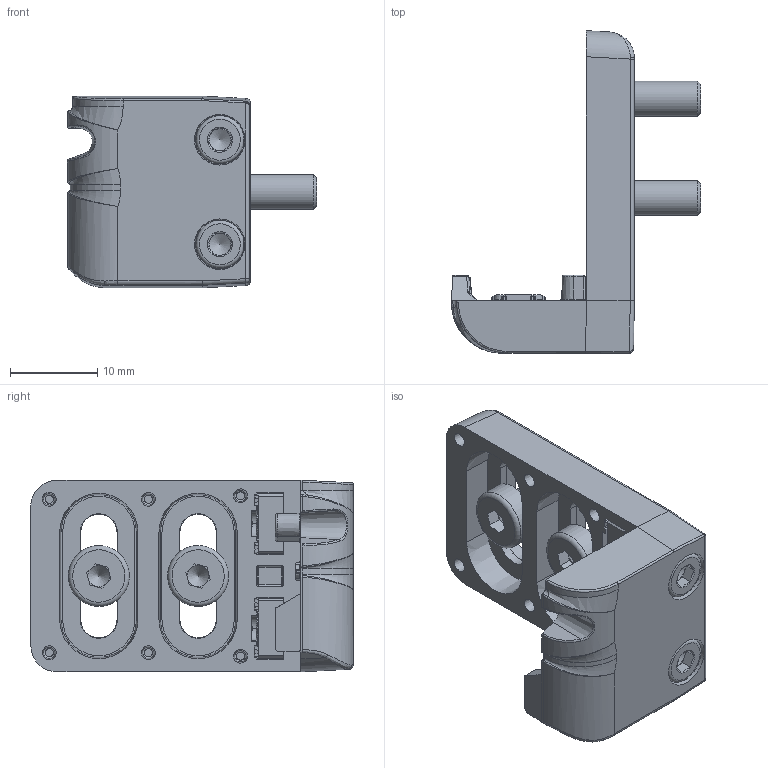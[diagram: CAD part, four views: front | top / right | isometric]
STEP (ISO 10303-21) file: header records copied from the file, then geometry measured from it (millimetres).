
FILE_DESCRIPTION(/* description */ (''),/* implementation_level */ '2;1');
FILE_NAME(/* name */ 'DSD-0660.stp',/* time_stamp */ '2015-12-21T10:54:51+01:00',/* author */ (''),/* organization */ (''),/* preprocessor_version */ 'ST-DEVELOPER v16',/* originating_system */ 'SIEMENS PLM Software NX 10.0',/* authorisation */ '');
FILE_SCHEMA (('AUTOMOTIVE_DESIGN { 1 0 10303 214 3 1 1 1 }'));
Length unit declared in the file: millimetre
Products named in the file (1): AP008237_01
Bounding box: 28.6 x 37 x 22 mm (x, y, z)
Surface area: 5622.4 mm2 (no closed solid volume)
Topology: 0 solids, 14 shells, 736 faces, 1952 edges, 1169 vertices
Faces by surface type: plane 282, cylinder 225, bspline 107, cone 54, sphere 38, torus 30
Full cylindrical faces by diameter (mm): 2.95 x2, 4 x2, 5.5 x2, 7 x2
Entity records: 23805 total; most frequent: CARTESIAN_POINT 6415, DIRECTION 3685, ORIENTED_EDGE 3438, EDGE_CURVE 1836, AXIS2_PLACEMENT_3D 1371, VERTEX_POINT 1144, LINE 943, VECTOR 943
